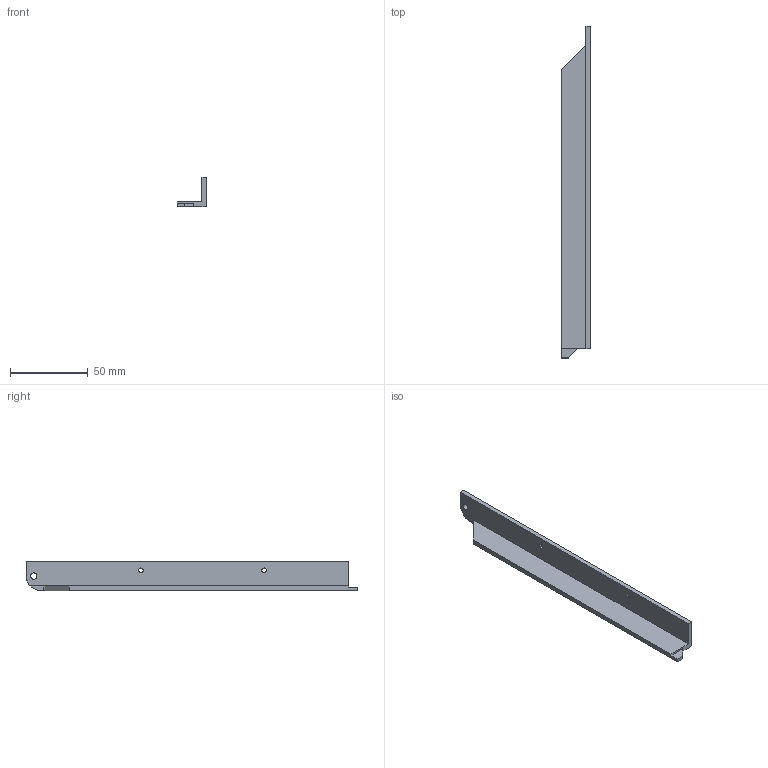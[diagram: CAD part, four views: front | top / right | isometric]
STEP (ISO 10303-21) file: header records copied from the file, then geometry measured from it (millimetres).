
FILE_DESCRIPTION(/* description */ ('VariCAD 2010-1.04 AP-203'),/* implementation_level */ '2;1');
FILE_NAME(/* name */ '0353-19-32',/* time_stamp */ '2010-01-26T13:12:08-07:00',/* author */ (''),/* organization */ (''),/* preprocessor_version */ 'ST-DEVELOPER v12',/* originating_system */ 'VariCAD 2010-1.04; kernel version (20090520)',/* authorisation */ '');
FILE_SCHEMA (('CONFIG_CONTROL_DESIGN'));
Length unit declared in the file: millimetre
Products named in the file (1): Part
Bounding box: 19.05 x 213.5 x 19.05 mm (x, y, z)
Volume: 21894.8 mm3; surface area: 15459.1 mm2
Topology: 1 solids, 1 shells, 29 faces, 72 edges, 45 vertices
Faces by surface type: plane 17, cylinder 8, cone 4
Entity records: 913 total; most frequent: DIRECTION 155, CARTESIAN_POINT 148, ORIENTED_EDGE 144, EDGE_CURVE 72, AXIS2_PLACEMENT_3D 52, LINE 51, VECTOR 51, VERTEX_POINT 45
